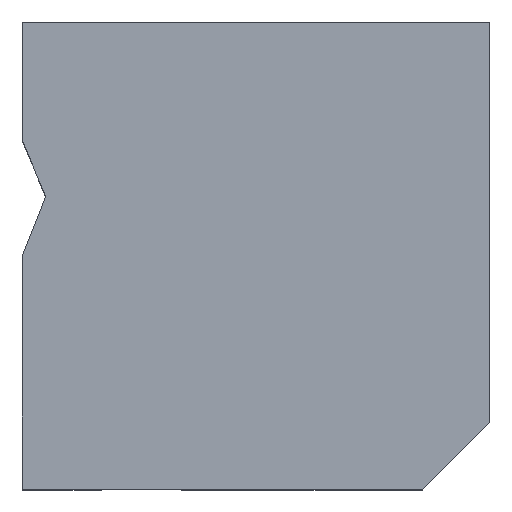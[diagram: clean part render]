
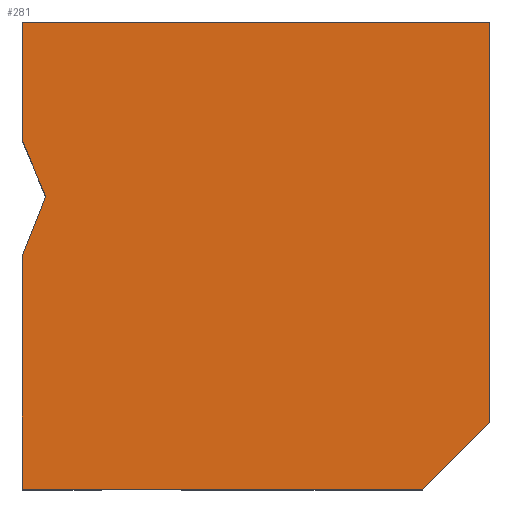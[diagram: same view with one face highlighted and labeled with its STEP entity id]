
A CAD part, top view. The second image highlights one B-rep face of the part: STEP entity #281.
In plain terms, the highlighted planar face has unit normal (0, 0, 1).
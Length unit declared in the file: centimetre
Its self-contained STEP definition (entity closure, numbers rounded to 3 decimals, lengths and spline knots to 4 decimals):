
#47 = DIRECTION ( 'NONE',  ( 0., -1., 0. ) ) ;
#62 = CARTESIAN_POINT ( 'NONE',  ( 1000., 143.732, 1000. ) ) ;
#64 = VERTEX_POINT ( 'NONE', #582 ) ;
#72 = CARTESIAN_POINT ( 'NONE',  ( 50., 626.7232, 1000. ) ) ;
#92 = ORIENTED_EDGE ( 'NONE', *, *, #572, .T. ) ;
#134 = DIRECTION ( 'NONE',  ( 1., 0., 0. ) ) ;
#145 = CARTESIAN_POINT ( 'NONE',  ( 0., 0., 1000. ) ) ;
#156 = CARTESIAN_POINT ( 'NONE',  ( 50., 626.7232, 1000. ) ) ;
#161 = DIRECTION ( 'NONE',  ( 0.387, -0.922, 0. ) ) ;
#184 = EDGE_LOOP ( 'NONE', ( #92, #1150, #573, #395, #979, #1366, #938, #993 ) ) ;
#215 = CARTESIAN_POINT ( 'NONE',  ( 1000., 1000., 1000. ) ) ;
#234 = VERTEX_POINT ( 'NONE', #215 ) ;
#239 = VECTOR ( 'NONE', #47, 100. ) ;
#265 = LINE ( 'NONE', #1132, #587 ) ;
#281 = ADVANCED_FACE ( 'NONE', ( #1311 ), #1097, .T. ) ;
#294 = VERTEX_POINT ( 'NONE', #1108 ) ;
#307 = VECTOR ( 'NONE', #1372, 100. ) ;
#348 = VECTOR ( 'NONE', #161, 100. ) ;
#368 = EDGE_CURVE ( 'NONE', #949, #294, #765, .T. ) ;
#370 = DIRECTION ( 'NONE',  ( -0.367, -0.93, 0. ) ) ;
#373 = DIRECTION ( 'NONE',  ( 0., 1., 0. ) ) ;
#395 = ORIENTED_EDGE ( 'NONE', *, *, #1195, .T. ) ;
#417 = VECTOR ( 'NONE', #370, 100. ) ;
#466 = EDGE_CURVE ( 'NONE', #471, #234, #265, .T. ) ;
#467 = EDGE_CURVE ( 'NONE', #64, #704, #1045, .T. ) ;
#471 = VERTEX_POINT ( 'NONE', #62 ) ;
#473 = LINE ( 'NONE', #944, #417 ) ;
#527 = EDGE_CURVE ( 'NONE', #929, #64, #591, .T. ) ;
#572 = EDGE_CURVE ( 'NONE', #704, #1063, #473, .T. ) ;
#573 = ORIENTED_EDGE ( 'NONE', *, *, #368, .T. ) ;
#580 = CARTESIAN_POINT ( 'NONE',  ( 0., 0., 1000. ) ) ;
#582 = CARTESIAN_POINT ( 'NONE',  ( 0., 745.9492, 1000. ) ) ;
#587 = VECTOR ( 'NONE', #373, 100. ) ;
#591 = LINE ( 'NONE', #1030, #239 ) ;
#675 = CARTESIAN_POINT ( 'NONE',  ( 0., 1000., 1000. ) ) ;
#704 = VERTEX_POINT ( 'NONE', #72 ) ;
#765 = LINE ( 'NONE', #145, #910 ) ;
#784 = DIRECTION ( 'NONE',  ( 0., 0., 1. ) ) ;
#806 = LINE ( 'NONE', #675, #816 ) ;
#816 = VECTOR ( 'NONE', #1216, 100. ) ;
#820 = LINE ( 'NONE', #1247, #1072 ) ;
#850 = DIRECTION ( 'NONE',  ( 0.707, 0.707, 0. ) ) ;
#901 = CARTESIAN_POINT ( 'NONE',  ( 0., 1000., 1000. ) ) ;
#906 = DIRECTION ( 'NONE',  ( 1., 0., 0. ) ) ;
#910 = VECTOR ( 'NONE', #906, 100. ) ;
#929 = VERTEX_POINT ( 'NONE', #901 ) ;
#938 = ORIENTED_EDGE ( 'NONE', *, *, #527, .T. ) ;
#944 = CARTESIAN_POINT ( 'NONE',  ( 0., 500., 1000. ) ) ;
#949 = VERTEX_POINT ( 'NONE', #580 ) ;
#957 = LINE ( 'NONE', #1029, #307 ) ;
#979 = ORIENTED_EDGE ( 'NONE', *, *, #466, .T. ) ;
#993 = ORIENTED_EDGE ( 'NONE', *, *, #467, .T. ) ;
#1010 = CARTESIAN_POINT ( 'NONE',  ( 0., 0., 1000. ) ) ;
#1020 = AXIS2_PLACEMENT_3D ( 'NONE', #1010, #784, #134 ) ;
#1024 = CARTESIAN_POINT ( 'NONE',  ( 0., 500., 1000. ) ) ;
#1029 = CARTESIAN_POINT ( 'NONE',  ( 0., 1000., 1000. ) ) ;
#1030 = CARTESIAN_POINT ( 'NONE',  ( 0., 1000., 1000. ) ) ;
#1045 = LINE ( 'NONE', #156, #348 ) ;
#1060 = EDGE_CURVE ( 'NONE', #1063, #949, #806, .T. ) ;
#1063 = VERTEX_POINT ( 'NONE', #1024 ) ;
#1072 = VECTOR ( 'NONE', #850, 100. ) ;
#1097 = PLANE ( 'NONE',  #1020 ) ;
#1108 = CARTESIAN_POINT ( 'NONE',  ( 856.268, 0., 1000. ) ) ;
#1132 = CARTESIAN_POINT ( 'NONE',  ( 1000., 1000., 1000. ) ) ;
#1150 = ORIENTED_EDGE ( 'NONE', *, *, #1060, .T. ) ;
#1195 = EDGE_CURVE ( 'NONE', #294, #471, #820, .T. ) ;
#1216 = DIRECTION ( 'NONE',  ( 0., -1., 0. ) ) ;
#1229 = EDGE_CURVE ( 'NONE', #234, #929, #957, .T. ) ;
#1247 = CARTESIAN_POINT ( 'NONE',  ( 428.134, -428.134, 1000. ) ) ;
#1311 = FACE_OUTER_BOUND ( 'NONE', #184, .T. ) ;
#1366 = ORIENTED_EDGE ( 'NONE', *, *, #1229, .T. ) ;
#1372 = DIRECTION ( 'NONE',  ( -1., 0., 0. ) ) ;
